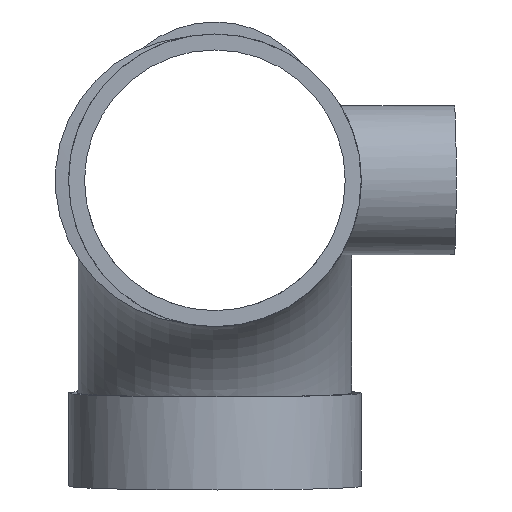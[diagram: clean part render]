
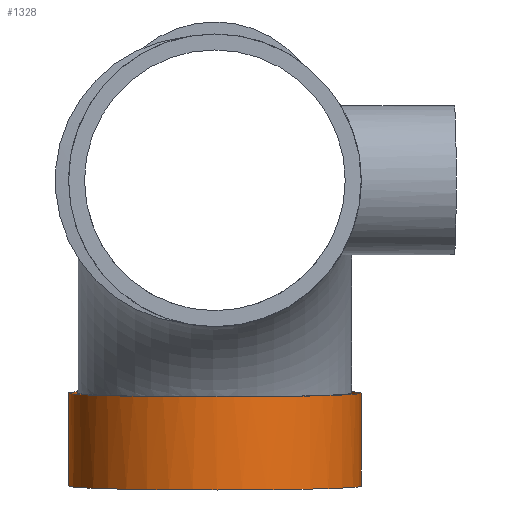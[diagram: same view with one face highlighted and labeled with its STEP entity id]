
A CAD part, front view. The second image highlights one B-rep face of the part: STEP entity #1328.
In plain terms, the highlighted cylindrical face has radius 55 mm (diameter 110 mm), a full revolution.
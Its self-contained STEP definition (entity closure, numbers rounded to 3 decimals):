
#119=B_SPLINE_CURVE_WITH_KNOTS($,3,(#3047,#3048,#3049,#3050),
 .UNSPECIFIED.,.F.,.F.,(4,4),(2.741,2.903),
 .UNSPECIFIED.);
#250=CYLINDRICAL_SURFACE($,#1507,55.);
#300=FACE_BOUND($,#508,.T.);
#379=FACE_OUTER_BOUND($,#507,.T.);
#507=EDGE_LOOP($,(#1206,#1207));
#508=EDGE_LOOP($,(#1208));
#594=CIRCLE($,#1504,55.);
#595=CIRCLE($,#1506,55.);
#714=VERTEX_POINT($,#3045);
#715=VERTEX_POINT($,#3046);
#716=VERTEX_POINT($,#3125);
#877=EDGE_CURVE($,#714,#715,#119,.T.);
#879=EDGE_CURVE($,#715,#714,#594,.T.);
#880=EDGE_CURVE($,#716,#716,#595,.T.);
#1206=ORIENTED_EDGE($,*,*,#877,.T.);
#1207=ORIENTED_EDGE($,*,*,#879,.T.);
#1208=ORIENTED_EDGE($,*,*,#880,.F.);
#1328=ADVANCED_FACE($,(#379,#300),#250,.T.);
#1504=AXIS2_PLACEMENT_3D($,#3123,#1897,#1898);
#1506=AXIS2_PLACEMENT_3D($,#3126,#1901,#1902);
#1507=AXIS2_PLACEMENT_3D($,#3127,#1903,#1904);
#1897=DIRECTION('center_axis',(-1.,0.026,0.));
#1898=DIRECTION('ref_axis',(-0.026,-1.,0.));
#1901=DIRECTION('center_axis',(-1.,0.026,0.));
#1902=DIRECTION('ref_axis',(-0.026,-1.,0.));
#1903=DIRECTION('center_axis',(1.,-0.026,0.));
#1904=DIRECTION('ref_axis',(-0.026,-1.,0.));
#3045=CARTESIAN_POINT('',(-81.412,82.119,-0.806));
#3046=CARTESIAN_POINT('',(-81.412,82.119,0.806));
#3047=CARTESIAN_POINT('Ctrl Pts',(-81.412,82.119,-0.806));
#3048=CARTESIAN_POINT('Ctrl Pts',(-81.415,82.111,-0.269));
#3049=CARTESIAN_POINT('Ctrl Pts',(-81.415,82.111,0.269));
#3050=CARTESIAN_POINT('Ctrl Pts',(-81.412,82.119,0.806));
#3123=CARTESIAN_POINT('Origin',(-79.973,137.094,0.));
#3125=CARTESIAN_POINT('',(-113.521,192.992,0.));
#3126=CARTESIAN_POINT('Origin',(-114.961,138.01,0.));
#3127=CARTESIAN_POINT('Origin',(-114.961,138.01,0.));
